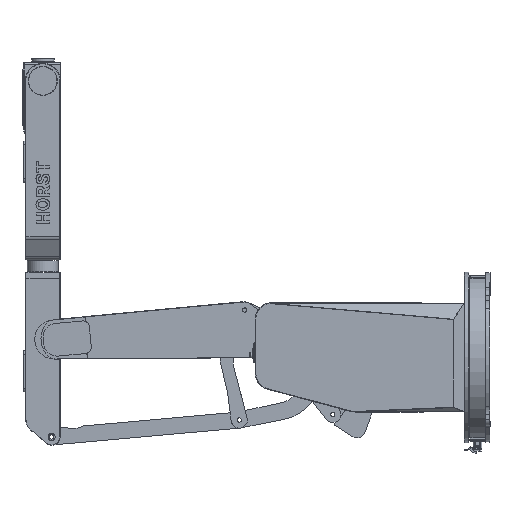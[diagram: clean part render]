
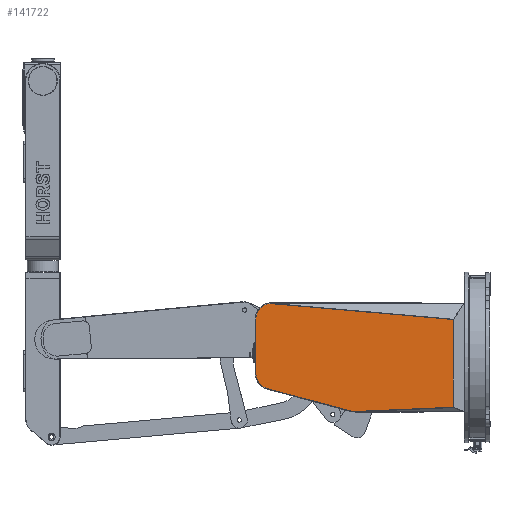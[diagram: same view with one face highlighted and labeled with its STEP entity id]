
A CAD part, left-side view. The second image highlights one B-rep face of the part: STEP entity #141722.
In plain terms, the highlighted planar face has unit normal (-1, 0, 0).
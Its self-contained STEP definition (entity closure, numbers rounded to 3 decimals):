
#3927 = ORIENTED_EDGE ( 'NONE', *, *, #108400, .T. ) ;
#4332 = DIRECTION ( 'NONE',  ( 0., 0., 1. ) ) ;
#4608 = AXIS2_PLACEMENT_3D ( 'NONE', #76908, #74946, #106782 ) ;
#6333 = DIRECTION ( 'NONE',  ( -1., 0., 0. ) ) ;
#18803 = ORIENTED_EDGE ( 'NONE', *, *, #27010, .F. ) ;
#20290 = VERTEX_POINT ( 'NONE', #98835 ) ;
#22178 = ORIENTED_EDGE ( 'NONE', *, *, #73632, .F. ) ;
#22596 = AXIS2_PLACEMENT_3D ( 'NONE', #29016, #59592, #177759 ) ;
#26061 = DIRECTION ( 'NONE',  ( 0., 0., -1. ) ) ;
#27010 = EDGE_CURVE ( 'NONE', #172554, #20290, #134965, .T. ) ;
#27214 = LINE ( 'NONE', #130619, #69375 ) ;
#29016 = CARTESIAN_POINT ( 'NONE',  ( -210.5, 607.5, -44.257 ) ) ;
#29920 = EDGE_CURVE ( 'NONE', #20290, #120531, #109508, .T. ) ;
#32549 = VERTEX_POINT ( 'NONE', #148434 ) ;
#43605 = VERTEX_POINT ( 'NONE', #88280 ) ;
#44515 = VERTEX_POINT ( 'NONE', #44693 ) ;
#44693 = CARTESIAN_POINT ( 'NONE',  ( -210.5, 393.717, -147.093 ) ) ;
#45020 = EDGE_CURVE ( 'NONE', #44515, #45400, #66951, .T. ) ;
#45400 = VERTEX_POINT ( 'NONE', #186502 ) ;
#49856 = EDGE_LOOP ( 'NONE', ( #139060, #18803, #56006, #120919, #109164, #3927, #158019, #85323, #22178, #68604 ) ) ;
#54570 = VECTOR ( 'NONE', #121030, 1000. ) ;
#54869 = LINE ( 'NONE', #167630, #182665 ) ;
#56006 = ORIENTED_EDGE ( 'NONE', *, *, #185074, .F. ) ;
#59592 = DIRECTION ( 'NONE',  ( -1., 0., 0. ) ) ;
#60782 = EDGE_CURVE ( 'NONE', #120531, #43605, #54869, .T. ) ;
#66951 = CIRCLE ( 'NONE', #4608, 100. ) ;
#68604 = ORIENTED_EDGE ( 'NONE', *, *, #60782, .F. ) ;
#69375 = VECTOR ( 'NONE', #26061, 1000. ) ;
#73632 = EDGE_CURVE ( 'NONE', #43605, #45400, #147512, .T. ) ;
#73705 = FACE_OUTER_BOUND ( 'NONE', #49856, .T. ) ;
#74946 = DIRECTION ( 'NONE',  ( -1., 0., 0. ) ) ;
#76908 = CARTESIAN_POINT ( 'NONE',  ( -210.5, 367.835, -50.5 ) ) ;
#78870 = EDGE_CURVE ( 'NONE', #182687, #32549, #173674, .T. ) ;
#79125 = CARTESIAN_POINT ( 'NONE',  ( -210.5, 607.5, 149.75 ) ) ;
#79388 = DIRECTION ( 'NONE',  ( 0., 0.999, -0.044 ) ) ;
#79433 = AXIS2_PLACEMENT_3D ( 'NONE', #125243, #6333, #81147 ) ;
#79808 = CARTESIAN_POINT ( 'NONE',  ( -210.5, 651.5, 0. ) ) ;
#81147 = DIRECTION ( 'NONE',  ( 0., 0., 1. ) ) ;
#85323 = ORIENTED_EDGE ( 'NONE', *, *, #45020, .T. ) ;
#88280 = CARTESIAN_POINT ( 'NONE',  ( -210.5, 367.835, -149.9 ) ) ;
#97826 = VECTOR ( 'NONE', #107345, 1000. ) ;
#98711 = DIRECTION ( 'NONE',  ( -1., 0., 0. ) ) ;
#98835 = CARTESIAN_POINT ( 'NONE',  ( -210.5, 102.002, 105.525 ) ) ;
#103664 = AXIS2_PLACEMENT_3D ( 'NONE', #187595, #98711, #128438 ) ;
#106782 = DIRECTION ( 'NONE',  ( 0., 0., 1. ) ) ;
#107345 = DIRECTION ( 'NONE',  ( 0., -0.996, -0.087 ) ) ;
#108400 = EDGE_CURVE ( 'NONE', #179411, #112065, #181045, .T. ) ;
#109164 = ORIENTED_EDGE ( 'NONE', *, *, #111176, .F. ) ;
#109508 = LINE ( 'NONE', #158891, #176764 ) ;
#111176 = EDGE_CURVE ( 'NONE', #179411, #32549, #174360, .T. ) ;
#112065 = VERTEX_POINT ( 'NONE', #173162 ) ;
#120531 = VERTEX_POINT ( 'NONE', #160492 ) ;
#120919 = ORIENTED_EDGE ( 'NONE', *, *, #78870, .T. ) ;
#121030 = DIRECTION ( 'NONE',  ( 0., 0., -1. ) ) ;
#125243 = CARTESIAN_POINT ( 'NONE',  ( -210.5, 68.5, 0. ) ) ;
#126275 = DIRECTION ( 'NONE',  ( 0., 0.966, 0.259 ) ) ;
#128438 = DIRECTION ( 'NONE',  ( 0., 0., 1. ) ) ;
#130619 = CARTESIAN_POINT ( 'NONE',  ( -210.5, 607.5, 151. ) ) ;
#134850 = VECTOR ( 'NONE', #4332, 1000. ) ;
#134965 = LINE ( 'NONE', #166372, #97826 ) ;
#137773 = CARTESIAN_POINT ( 'NONE',  ( -210.5, 607.5, 150.5 ) ) ;
#139060 = ORIENTED_EDGE ( 'NONE', *, *, #29920, .F. ) ;
#141722 = ADVANCED_FACE ( 'NONE', ( #73705 ), #184353, .T. ) ;
#147512 = LINE ( 'NONE', #192511, #54570 ) ;
#148434 = CARTESIAN_POINT ( 'NONE',  ( -210.5, 651.5, 106.5 ) ) ;
#158019 = ORIENTED_EDGE ( 'NONE', *, *, #186674, .F. ) ;
#158891 = CARTESIAN_POINT ( 'NONE',  ( -210.5, 102.002, 0. ) ) ;
#160492 = CARTESIAN_POINT ( 'NONE',  ( -210.5, 102.002, -138.293 ) ) ;
#166372 = CARTESIAN_POINT ( 'NONE',  ( -210.5, 607.5, 149.75 ) ) ;
#167421 = LINE ( 'NONE', #187313, #188292 ) ;
#167630 = CARTESIAN_POINT ( 'NONE',  ( -210.5, 367.835, -149.9 ) ) ;
#172554 = VERTEX_POINT ( 'NONE', #79125 ) ;
#173162 = CARTESIAN_POINT ( 'NONE',  ( -210.5, 618.888, -86.758 ) ) ;
#173674 = CIRCLE ( 'NONE', #103664, 44. ) ;
#174360 = LINE ( 'NONE', #79808, #134850 ) ;
#176764 = VECTOR ( 'NONE', #190772, 1000. ) ;
#177759 = DIRECTION ( 'NONE',  ( 0., 0., 1. ) ) ;
#179411 = VERTEX_POINT ( 'NONE', #190561 ) ;
#181045 = CIRCLE ( 'NONE', #22596, 44. ) ;
#182665 = VECTOR ( 'NONE', #79388, 1000. ) ;
#182687 = VERTEX_POINT ( 'NONE', #137773 ) ;
#184353 = PLANE ( 'NONE',  #79433 ) ;
#185074 = EDGE_CURVE ( 'NONE', #182687, #172554, #27214, .T. ) ;
#186502 = CARTESIAN_POINT ( 'NONE',  ( -210.5, 367.835, -150.5 ) ) ;
#186674 = EDGE_CURVE ( 'NONE', #44515, #112065, #167421, .T. ) ;
#187313 = CARTESIAN_POINT ( 'NONE',  ( -210.5, 127.059, -218.543 ) ) ;
#187595 = CARTESIAN_POINT ( 'NONE',  ( -210.5, 607.5, 106.5 ) ) ;
#188292 = VECTOR ( 'NONE', #126275, 1000. ) ;
#190561 = CARTESIAN_POINT ( 'NONE',  ( -210.5, 651.5, -44.257 ) ) ;
#190772 = DIRECTION ( 'NONE',  ( 0., 0., -1. ) ) ;
#192511 = CARTESIAN_POINT ( 'NONE',  ( -210.5, 367.835, -151. ) ) ;
